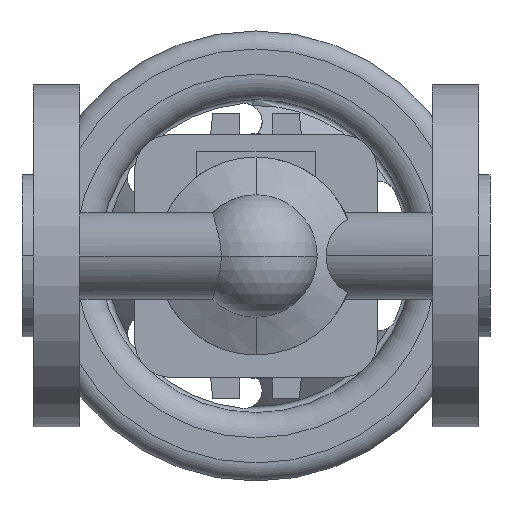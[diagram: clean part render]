
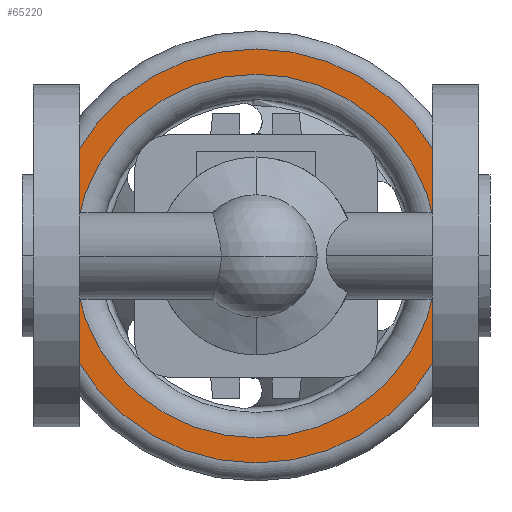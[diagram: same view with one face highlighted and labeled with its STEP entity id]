
A CAD part, front view. The second image highlights one B-rep face of the part: STEP entity #65220.
In plain terms, the highlighted planar face has unit normal (0, -1, 0).
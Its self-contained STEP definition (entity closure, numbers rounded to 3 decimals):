
#64610=CARTESIAN_POINT('',(122.5,202.3,0.));
#64620=VERTEX_POINT('',#64610);
#64720=CARTESIAN_POINT('',(7.5,202.3,0.));
#64730=VERTEX_POINT('',#64720);
#64760=CARTESIAN_POINT('',(65.,202.3,0.));
#64770=DIRECTION('',(0.,1.,0.));
#64780=DIRECTION('',(-1.,0.,0.));
#64790=AXIS2_PLACEMENT_3D('',#64760,#64770,#64780);
#64800=CIRCLE('',#64790,57.5);
#64810=EDGE_CURVE('',#64620,#64730,#64800,.T.);
#64930=CARTESIAN_POINT('',(11.,202.3,0.));
#64940=DIRECTION('',(0.,-1.,0.));
#64950=DIRECTION('',(1.,0.,0.));
#64960=AXIS2_PLACEMENT_3D('',#64930,#64940,#64950);
#64970=PLANE('',#64960);
#64980=EDGE_CURVE('',#64730,#64620,#64800,.T.);
#64990=ORIENTED_EDGE('',*,*,#64980,.F.);
#65000=ORIENTED_EDGE('',*,*,#64810,.F.);
#65010=EDGE_LOOP('',(#65000,#64990));
#65020=FACE_OUTER_BOUND('',#65010,.T.);
#65030=CARTESIAN_POINT('',(65.,202.3,0.));
#65040=DIRECTION('',(0.,1.,0.));
#65050=DIRECTION('',(-1.,0.,0.));
#65060=AXIS2_PLACEMENT_3D('',#65030,#65040,#65050);
#65070=CIRCLE('',#65060,50.5);
#65080=CARTESIAN_POINT('',(115.5,202.3,0.));
#65090=VERTEX_POINT('',#65080);
#65100=CARTESIAN_POINT('',(14.5,202.3,0.));
#65110=VERTEX_POINT('',#65100);
#65120=EDGE_CURVE('',#65090,#65110,#65070,.T.);
#65130=ORIENTED_EDGE('',*,*,#65120,.T.);
#65140=CARTESIAN_POINT('',(65.,202.3,50.5));
#65150=VERTEX_POINT('',#65140);
#65160=EDGE_CURVE('',#65150,#65090,#65070,.T.);
#65170=ORIENTED_EDGE('',*,*,#65160,.T.);
#65180=EDGE_CURVE('',#65110,#65150,#65070,.T.);
#65190=ORIENTED_EDGE('',*,*,#65180,.T.);
#65200=EDGE_LOOP('',(#65190,#65170,#65130));
#65210=FACE_BOUND('',#65200,.T.);
#65220=ADVANCED_FACE('',(#65020,#65210),#64970,.T.);
